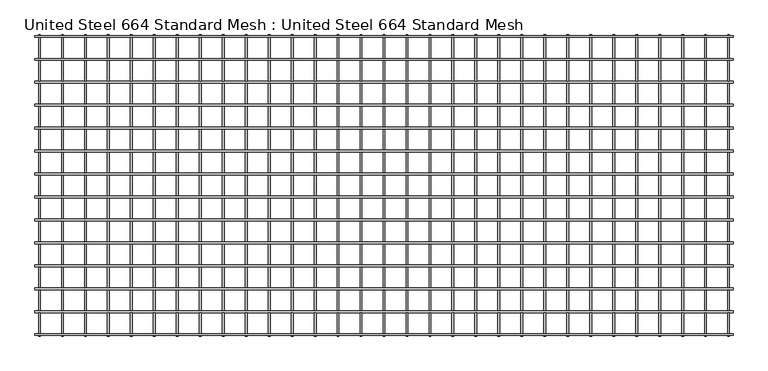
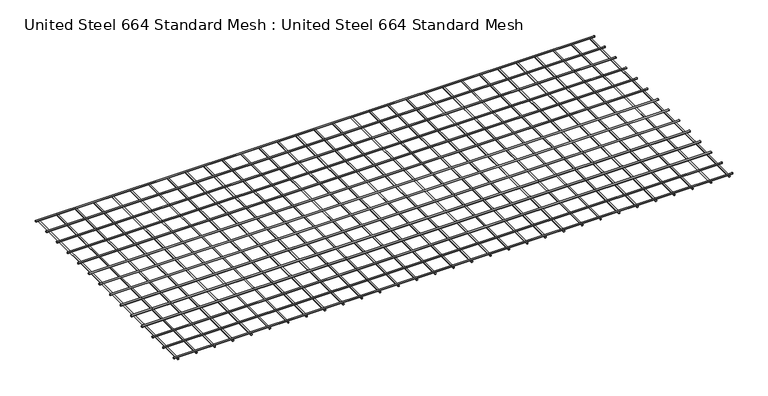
"""IFC4 building model written with IfcOpenShell, lengths in millimetres: proxy geometry, United Steel 664 Standard Mesh : United Steel 664 Standard Mesh."""

from ifc_helpers import new_model, si_unit, point, frame, frame_2d, origin, place, context, project, spatial, circle_curve, trimmed, segment, composite_curve, outline, extrude, source, transform, mapped, element, save


def united_steel_664_standard_mesh_united_steel_664_standard_126bfd4c(model_context):
    return source(origin(), model_context, "Body", "SweptSolid", [
        extrude(outline(composite_curve([segment(trimmed(circle_curve(frame_2d((-160.258988, 17.9942225)), 6.0), [point((-166.258988, 17.9942225))], [point((-154.258988, 17.9942225))], False, "CARTESIAN"), True, "CONTINUOUS"), segment(trimmed(circle_curve(frame_2d((-160.258988, 17.9942225)), 6.0), [point((-154.258988, 17.9942225))], [point((-166.258988, 17.9942225))], False, "CARTESIAN"), True, "CONTINUOUS")], self_intersect=False)), frame((-4560.0, 0.0, 0.0), z_axis=(1.0, 0.0, 0.0), x_axis=(0.0, 1.0, 0.0)), (0.0, 0.0, 1.0), 4560.0),
        extrude(outline(composite_curve([segment(trimmed(circle_curve(frame_2d((5.9979006, -4380.0336269)), 6.0), [point((5.9979006, -4386.0336269))], [point((5.9979006, -4374.0336269))], False, "CARTESIAN"), True, "CONTINUOUS"), segment(trimmed(circle_curve(frame_2d((5.9979006, -4380.0336269)), 6.0), [point((5.9979006, -4374.0336269))], [point((5.9979006, -4386.0336269))], False, "CARTESIAN"), True, "CONTINUOUS")], self_intersect=False)), frame((0.0, -1970.0, 0.0), z_axis=(0.0, 1.0, 0.0), x_axis=(0.0, 0.0, 1.0)), (0.0, 0.0, 1.0), 1970.0),
        extrude(outline(composite_curve([segment(trimmed(circle_curve(frame_2d((-310.2633498, 17.9942225)), 6.0), [point((-316.2633498, 17.9942225))], [point((-304.2633498, 17.9942225))], False, "CARTESIAN"), True, "CONTINUOUS"), segment(trimmed(circle_curve(frame_2d((-310.2633498, 17.9942225)), 6.0), [point((-304.2633498, 17.9942225))], [point((-316.2633498, 17.9942225))], False, "CARTESIAN"), True, "CONTINUOUS")], self_intersect=False)), frame((-4560.0, 0.0, 0.0), z_axis=(1.0, 0.0, 0.0), x_axis=(0.0, 1.0, 0.0)), (0.0, 0.0, 1.0), 4560.0),
        extrude(outline(composite_curve([segment(trimmed(circle_curve(frame_2d((-460.2677116, 17.9942225)), 6.0), [point((-466.2677116, 17.9942225))], [point((-454.2677116, 17.9942225))], False, "CARTESIAN"), True, "CONTINUOUS"), segment(trimmed(circle_curve(frame_2d((-460.2677116, 17.9942225)), 6.0), [point((-454.2677116, 17.9942225))], [point((-466.2677116, 17.9942225))], False, "CARTESIAN"), True, "CONTINUOUS")], self_intersect=False)), frame((-4560.0, 0.0, 0.0), z_axis=(1.0, 0.0, 0.0), x_axis=(0.0, 1.0, 0.0)), (0.0, 0.0, 1.0), 4560.0),
        extrude(outline(composite_curve([segment(trimmed(circle_curve(frame_2d((5.9979006, -4230.0270638)), 6.0), [point((5.9979006, -4236.0270638))], [point((5.9979006, -4224.0270638))], False, "CARTESIAN"), True, "CONTINUOUS"), segment(trimmed(circle_curve(frame_2d((5.9979006, -4230.0270638)), 6.0), [point((5.9979006, -4224.0270638))], [point((5.9979006, -4236.0270638))], False, "CARTESIAN"), True, "CONTINUOUS")], self_intersect=False)), frame((0.0, -1970.0, 0.0), z_axis=(0.0, 1.0, 0.0), x_axis=(0.0, 0.0, 1.0)), (0.0, 0.0, 1.0), 1970.0),
        extrude(outline(composite_curve([segment(trimmed(circle_curve(frame_2d((5.9979006, -4080.0205008)), 6.0), [point((5.9979006, -4086.0205008))], [point((5.9979006, -4074.0205008))], False, "CARTESIAN"), True, "CONTINUOUS"), segment(trimmed(circle_curve(frame_2d((5.9979006, -4080.0205008)), 6.0), [point((5.9979006, -4074.0205008))], [point((5.9979006, -4086.0205008))], False, "CARTESIAN"), True, "CONTINUOUS")], self_intersect=False)), frame((0.0, -1970.0, 0.0), z_axis=(0.0, 1.0, 0.0), x_axis=(0.0, 0.0, 1.0)), (0.0, 0.0, 1.0), 1970.0),
        extrude(outline(composite_curve([segment(trimmed(circle_curve(frame_2d((5.9979006, -3930.0139377)), 6.0), [point((5.9979006, -3936.0139377))], [point((5.9979006, -3924.0139377))], False, "CARTESIAN"), True, "CONTINUOUS"), segment(trimmed(circle_curve(frame_2d((5.9979006, -3930.0139377)), 6.0), [point((5.9979006, -3924.0139377))], [point((5.9979006, -3936.0139377))], False, "CARTESIAN"), True, "CONTINUOUS")], self_intersect=False)), frame((0.0, -1970.0, 0.0), z_axis=(0.0, 1.0, 0.0), x_axis=(0.0, 0.0, 1.0)), (0.0, 0.0, 1.0), 1970.0),
        extrude(outline(composite_curve([segment(trimmed(circle_curve(frame_2d((5.9979006, -3780.0073746)), 6.0), [point((5.9979006, -3786.0073746))], [point((5.9979006, -3774.0073746))], False, "CARTESIAN"), True, "CONTINUOUS"), segment(trimmed(circle_curve(frame_2d((5.9979006, -3780.0073746)), 6.0), [point((5.9979006, -3774.0073746))], [point((5.9979006, -3786.0073746))], False, "CARTESIAN"), True, "CONTINUOUS")], self_intersect=False)), frame((0.0, -1970.0, 0.0), z_axis=(0.0, 1.0, 0.0), x_axis=(0.0, 0.0, 1.0)), (0.0, 0.0, 1.0), 1970.0),
        extrude(outline(composite_curve([segment(trimmed(circle_curve(frame_2d((5.9979006, -3630.0008116)), 6.0), [point((5.9979006, -3636.0008116))], [point((5.9979006, -3624.0008116))], False, "CARTESIAN"), True, "CONTINUOUS"), segment(trimmed(circle_curve(frame_2d((5.9979006, -3630.0008116)), 6.0), [point((5.9979006, -3624.0008116))], [point((5.9979006, -3636.0008116))], False, "CARTESIAN"), True, "CONTINUOUS")], self_intersect=False)), frame((0.0, -1970.0, 0.0), z_axis=(0.0, 1.0, 0.0), x_axis=(0.0, 0.0, 1.0)), (0.0, 0.0, 1.0), 1970.0),
        extrude(outline(composite_curve([segment(trimmed(circle_curve(frame_2d((5.9979006, -3479.9942485)), 6.0), [point((5.9979006, -3485.9942485))], [point((5.9979006, -3473.9942485))], False, "CARTESIAN"), True, "CONTINUOUS"), segment(trimmed(circle_curve(frame_2d((5.9979006, -3479.9942485)), 6.0), [point((5.9979006, -3473.9942485))], [point((5.9979006, -3485.9942485))], False, "CARTESIAN"), True, "CONTINUOUS")], self_intersect=False)), frame((0.0, -1970.0, 0.0), z_axis=(0.0, 1.0, 0.0), x_axis=(0.0, 0.0, 1.0)), (0.0, 0.0, 1.0), 1970.0),
        extrude(outline(composite_curve([segment(trimmed(circle_curve(frame_2d((5.9979006, -3329.9876855)), 6.0), [point((5.9979006, -3335.9876855))], [point((5.9979006, -3323.9876855))], False, "CARTESIAN"), True, "CONTINUOUS"), segment(trimmed(circle_curve(frame_2d((5.9979006, -3329.9876855)), 6.0), [point((5.9979006, -3323.9876855))], [point((5.9979006, -3335.9876855))], False, "CARTESIAN"), True, "CONTINUOUS")], self_intersect=False)), frame((0.0, -1970.0, 0.0), z_axis=(0.0, 1.0, 0.0), x_axis=(0.0, 0.0, 1.0)), (0.0, 0.0, 1.0), 1970.0),
        extrude(outline(composite_curve([segment(trimmed(circle_curve(frame_2d((-610.2720734, 17.9942225)), 6.0), [point((-616.2720734, 17.9942225))], [point((-604.2720734, 17.9942225))], False, "CARTESIAN"), True, "CONTINUOUS"), segment(trimmed(circle_curve(frame_2d((-610.2720734, 17.9942225)), 6.0), [point((-604.2720734, 17.9942225))], [point((-616.2720734, 17.9942225))], False, "CARTESIAN"), True, "CONTINUOUS")], self_intersect=False)), frame((-4560.0, 0.0, 0.0), z_axis=(1.0, 0.0, 0.0), x_axis=(0.0, 1.0, 0.0)), (0.0, 0.0, 1.0), 4560.0),
        extrude(outline(composite_curve([segment(trimmed(circle_curve(frame_2d((-760.2764352, 17.9942225)), 6.0), [point((-766.2764352, 17.9942225))], [point((-754.2764352, 17.9942225))], False, "CARTESIAN"), True, "CONTINUOUS"), segment(trimmed(circle_curve(frame_2d((-760.2764352, 17.9942225)), 6.0), [point((-754.2764352, 17.9942225))], [point((-766.2764352, 17.9942225))], False, "CARTESIAN"), True, "CONTINUOUS")], self_intersect=False)), frame((-4560.0, 0.0, 0.0), z_axis=(1.0, 0.0, 0.0), x_axis=(0.0, 1.0, 0.0)), (0.0, 0.0, 1.0), 4560.0),
        extrude(outline(composite_curve([segment(trimmed(circle_curve(frame_2d((-910.280797, 17.9942225)), 6.0), [point((-916.280797, 17.9942225))], [point((-904.280797, 17.9942225))], False, "CARTESIAN"), True, "CONTINUOUS"), segment(trimmed(circle_curve(frame_2d((-910.280797, 17.9942225)), 6.0), [point((-904.280797, 17.9942225))], [point((-916.280797, 17.9942225))], False, "CARTESIAN"), True, "CONTINUOUS")], self_intersect=False)), frame((-4560.0, 0.0, 0.0), z_axis=(1.0, 0.0, 0.0), x_axis=(0.0, 1.0, 0.0)), (0.0, 0.0, 1.0), 4560.0),
        extrude(outline(composite_curve([segment(trimmed(circle_curve(frame_2d((-1060.2851588, 17.9942225)), 6.0), [point((-1066.2851588, 17.9942225))], [point((-1054.2851588, 17.9942225))], False, "CARTESIAN"), True, "CONTINUOUS"), segment(trimmed(circle_curve(frame_2d((-1060.2851588, 17.9942225)), 6.0), [point((-1054.2851588, 17.9942225))], [point((-1066.2851588, 17.9942225))], False, "CARTESIAN"), True, "CONTINUOUS")], self_intersect=False)), frame((-4560.0, 0.0, 0.0), z_axis=(1.0, 0.0, 0.0), x_axis=(0.0, 1.0, 0.0)), (0.0, 0.0, 1.0), 4560.0),
        extrude(outline(composite_curve([segment(trimmed(circle_curve(frame_2d((-1210.2895206, 17.9942225)), 6.0), [point((-1216.2895206, 17.9942225))], [point((-1204.2895206, 17.9942225))], False, "CARTESIAN"), True, "CONTINUOUS"), segment(trimmed(circle_curve(frame_2d((-1210.2895206, 17.9942225)), 6.0), [point((-1204.2895206, 17.9942225))], [point((-1216.2895206, 17.9942225))], False, "CARTESIAN"), True, "CONTINUOUS")], self_intersect=False)), frame((-4560.0, 0.0, 0.0), z_axis=(1.0, 0.0, 0.0), x_axis=(0.0, 1.0, 0.0)), (0.0, 0.0, 1.0), 4560.0),
        extrude(outline(composite_curve([segment(trimmed(circle_curve(frame_2d((-1360.2938824, 17.9942225)), 6.0), [point((-1366.2938824, 17.9942225))], [point((-1354.2938824, 17.9942225))], False, "CARTESIAN"), True, "CONTINUOUS"), segment(trimmed(circle_curve(frame_2d((-1360.2938824, 17.9942225)), 6.0), [point((-1354.2938824, 17.9942225))], [point((-1366.2938824, 17.9942225))], False, "CARTESIAN"), True, "CONTINUOUS")], self_intersect=False)), frame((-4560.0, 0.0, 0.0), z_axis=(1.0, 0.0, 0.0), x_axis=(0.0, 1.0, 0.0)), (0.0, 0.0, 1.0), 4560.0),
        extrude(outline(composite_curve([segment(trimmed(circle_curve(frame_2d((-1510.2982442, 17.9942225)), 6.0), [point((-1516.2982442, 17.9942225))], [point((-1504.2982442, 17.9942225))], False, "CARTESIAN"), True, "CONTINUOUS"), segment(trimmed(circle_curve(frame_2d((-1510.2982442, 17.9942225)), 6.0), [point((-1504.2982442, 17.9942225))], [point((-1516.2982442, 17.9942225))], False, "CARTESIAN"), True, "CONTINUOUS")], self_intersect=False)), frame((-4560.0, 0.0, 0.0), z_axis=(1.0, 0.0, 0.0), x_axis=(0.0, 1.0, 0.0)), (0.0, 0.0, 1.0), 4560.0),
        extrude(outline(composite_curve([segment(trimmed(circle_curve(frame_2d((-1660.302606, 17.9942225)), 6.0), [point((-1666.302606, 17.9942225))], [point((-1654.302606, 17.9942225))], False, "CARTESIAN"), True, "CONTINUOUS"), segment(trimmed(circle_curve(frame_2d((-1660.302606, 17.9942225)), 6.0), [point((-1654.302606, 17.9942225))], [point((-1666.302606, 17.9942225))], False, "CARTESIAN"), True, "CONTINUOUS")], self_intersect=False)), frame((-4560.0, 0.0, 0.0), z_axis=(1.0, 0.0, 0.0), x_axis=(0.0, 1.0, 0.0)), (0.0, 0.0, 1.0), 4560.0),
        extrude(outline(composite_curve([segment(trimmed(circle_curve(frame_2d((-1810.3069678, 17.9942225)), 6.0), [point((-1816.3069678, 17.9942225))], [point((-1804.3069678, 17.9942225))], False, "CARTESIAN"), True, "CONTINUOUS"), segment(trimmed(circle_curve(frame_2d((-1810.3069678, 17.9942225)), 6.0), [point((-1804.3069678, 17.9942225))], [point((-1816.3069678, 17.9942225))], False, "CARTESIAN"), True, "CONTINUOUS")], self_intersect=False)), frame((-4560.0, 0.0, 0.0), z_axis=(1.0, 0.0, 0.0), x_axis=(0.0, 1.0, 0.0)), (0.0, 0.0, 1.0), 4560.0),
        extrude(outline(composite_curve([segment(trimmed(circle_curve(frame_2d((-10.2546262, 17.9942225)), 6.0), [point((-16.2546262, 17.9942225))], [point((-4.2546262, 17.9942225))], False, "CARTESIAN"), True, "CONTINUOUS"), segment(trimmed(circle_curve(frame_2d((-10.2546262, 17.9942225)), 6.0), [point((-4.2546262, 17.9942225))], [point((-16.2546262, 17.9942225))], False, "CARTESIAN"), True, "CONTINUOUS")], self_intersect=False)), frame((-4560.0, 0.0, 0.0), z_axis=(1.0, 0.0, 0.0), x_axis=(0.0, 1.0, 0.0)), (0.0, 0.0, 1.0), 4560.0),
        extrude(outline(composite_curve([segment(trimmed(circle_curve(frame_2d((-1960.3113296, 17.9942225)), 6.0), [point((-1966.3113296, 17.9942225))], [point((-1954.3113296, 17.9942225))], False, "CARTESIAN"), True, "CONTINUOUS"), segment(trimmed(circle_curve(frame_2d((-1960.3113296, 17.9942225)), 6.0), [point((-1954.3113296, 17.9942225))], [point((-1966.3113296, 17.9942225))], False, "CARTESIAN"), True, "CONTINUOUS")], self_intersect=False)), frame((-4560.0, 0.0, 0.0), z_axis=(1.0, 0.0, 0.0), x_axis=(0.0, 1.0, 0.0)), (0.0, 0.0, 1.0), 4560.0),
        extrude(outline(composite_curve([segment(trimmed(circle_curve(frame_2d((5.9979006, -3179.9811224)), 6.0), [point((5.9979006, -3185.9811224))], [point((5.9979006, -3173.9811224))], False, "CARTESIAN"), True, "CONTINUOUS"), segment(trimmed(circle_curve(frame_2d((5.9979006, -3179.9811224)), 6.0), [point((5.9979006, -3173.9811224))], [point((5.9979006, -3185.9811224))], False, "CARTESIAN"), True, "CONTINUOUS")], self_intersect=False)), frame((0.0, -1970.0, 0.0), z_axis=(0.0, 1.0, 0.0), x_axis=(0.0, 0.0, 1.0)), (0.0, 0.0, 1.0), 1970.0),
        extrude(outline(composite_curve([segment(trimmed(circle_curve(frame_2d((5.9979006, -3029.9745593)), 6.0), [point((5.9979006, -3035.9745593))], [point((5.9979006, -3023.9745593))], False, "CARTESIAN"), True, "CONTINUOUS"), segment(trimmed(circle_curve(frame_2d((5.9979006, -3029.9745593)), 6.0), [point((5.9979006, -3023.9745593))], [point((5.9979006, -3035.9745593))], False, "CARTESIAN"), True, "CONTINUOUS")], self_intersect=False)), frame((0.0, -1970.0, 0.0), z_axis=(0.0, 1.0, 0.0), x_axis=(0.0, 0.0, 1.0)), (0.0, 0.0, 1.0), 1970.0),
        extrude(outline(composite_curve([segment(trimmed(circle_curve(frame_2d((5.9979006, -2879.9679963)), 6.0), [point((5.9979006, -2885.9679963))], [point((5.9979006, -2873.9679963))], False, "CARTESIAN"), True, "CONTINUOUS"), segment(trimmed(circle_curve(frame_2d((5.9979006, -2879.9679963)), 6.0), [point((5.9979006, -2873.9679963))], [point((5.9979006, -2885.9679963))], False, "CARTESIAN"), True, "CONTINUOUS")], self_intersect=False)), frame((0.0, -1970.0, 0.0), z_axis=(0.0, 1.0, 0.0), x_axis=(0.0, 0.0, 1.0)), (0.0, 0.0, 1.0), 1970.0),
        extrude(outline(composite_curve([segment(trimmed(circle_curve(frame_2d((5.9979006, -2729.9614332)), 6.0), [point((5.9979006, -2735.9614332))], [point((5.9979006, -2723.9614332))], False, "CARTESIAN"), True, "CONTINUOUS"), segment(trimmed(circle_curve(frame_2d((5.9979006, -2729.9614332)), 6.0), [point((5.9979006, -2723.9614332))], [point((5.9979006, -2735.9614332))], False, "CARTESIAN"), True, "CONTINUOUS")], self_intersect=False)), frame((0.0, -1970.0, 0.0), z_axis=(0.0, 1.0, 0.0), x_axis=(0.0, 0.0, 1.0)), (0.0, 0.0, 1.0), 1970.0),
        extrude(outline(composite_curve([segment(trimmed(circle_curve(frame_2d((5.9979006, -2579.9548701)), 6.0), [point((5.9979006, -2585.9548701))], [point((5.9979006, -2573.9548701))], False, "CARTESIAN"), True, "CONTINUOUS"), segment(trimmed(circle_curve(frame_2d((5.9979006, -2579.9548701)), 6.0), [point((5.9979006, -2573.9548701))], [point((5.9979006, -2585.9548701))], False, "CARTESIAN"), True, "CONTINUOUS")], self_intersect=False)), frame((0.0, -1970.0, 0.0), z_axis=(0.0, 1.0, 0.0), x_axis=(0.0, 0.0, 1.0)), (0.0, 0.0, 1.0), 1970.0),
        extrude(outline(composite_curve([segment(trimmed(circle_curve(frame_2d((5.9979006, -2429.9483071)), 6.0), [point((5.9979006, -2435.9483071))], [point((5.9979006, -2423.9483071))], False, "CARTESIAN"), True, "CONTINUOUS"), segment(trimmed(circle_curve(frame_2d((5.9979006, -2429.9483071)), 6.0), [point((5.9979006, -2423.9483071))], [point((5.9979006, -2435.9483071))], False, "CARTESIAN"), True, "CONTINUOUS")], self_intersect=False)), frame((0.0, -1970.0, 0.0), z_axis=(0.0, 1.0, 0.0), x_axis=(0.0, 0.0, 1.0)), (0.0, 0.0, 1.0), 1970.0),
        extrude(outline(composite_curve([segment(trimmed(circle_curve(frame_2d((5.9979006, -2279.941744)), 6.0), [point((5.9979006, -2285.941744))], [point((5.9979006, -2273.941744))], False, "CARTESIAN"), True, "CONTINUOUS"), segment(trimmed(circle_curve(frame_2d((5.9979006, -2279.941744)), 6.0), [point((5.9979006, -2273.941744))], [point((5.9979006, -2285.941744))], False, "CARTESIAN"), True, "CONTINUOUS")], self_intersect=False)), frame((0.0, -1970.0, 0.0), z_axis=(0.0, 1.0, 0.0), x_axis=(0.0, 0.0, 1.0)), (0.0, 0.0, 1.0), 1970.0),
        extrude(outline(composite_curve([segment(trimmed(circle_curve(frame_2d((5.9979006, -2129.9351809)), 6.0), [point((5.9979006, -2135.9351809))], [point((5.9979006, -2123.9351809))], False, "CARTESIAN"), True, "CONTINUOUS"), segment(trimmed(circle_curve(frame_2d((5.9979006, -2129.9351809)), 6.0), [point((5.9979006, -2123.9351809))], [point((5.9979006, -2135.9351809))], False, "CARTESIAN"), True, "CONTINUOUS")], self_intersect=False)), frame((0.0, -1970.0, 0.0), z_axis=(0.0, 1.0, 0.0), x_axis=(0.0, 0.0, 1.0)), (0.0, 0.0, 1.0), 1970.0),
        extrude(outline(composite_curve([segment(trimmed(circle_curve(frame_2d((5.9979006, -1979.9286179)), 6.0), [point((5.9979006, -1985.9286179))], [point((5.9979006, -1973.9286179))], False, "CARTESIAN"), True, "CONTINUOUS"), segment(trimmed(circle_curve(frame_2d((5.9979006, -1979.9286179)), 6.0), [point((5.9979006, -1973.9286179))], [point((5.9979006, -1985.9286179))], False, "CARTESIAN"), True, "CONTINUOUS")], self_intersect=False)), frame((0.0, -1970.0, 0.0), z_axis=(0.0, 1.0, 0.0), x_axis=(0.0, 0.0, 1.0)), (0.0, 0.0, 1.0), 1970.0),
        extrude(outline(composite_curve([segment(trimmed(circle_curve(frame_2d((5.9979006, -1829.9220548)), 6.0), [point((5.9979006, -1835.9220548))], [point((5.9979006, -1823.9220548))], False, "CARTESIAN"), True, "CONTINUOUS"), segment(trimmed(circle_curve(frame_2d((5.9979006, -1829.9220548)), 6.0), [point((5.9979006, -1823.9220548))], [point((5.9979006, -1835.9220548))], False, "CARTESIAN"), True, "CONTINUOUS")], self_intersect=False)), frame((0.0, -1970.0, 0.0), z_axis=(0.0, 1.0, 0.0), x_axis=(0.0, 0.0, 1.0)), (0.0, 0.0, 1.0), 1970.0),
        extrude(outline(composite_curve([segment(trimmed(circle_curve(frame_2d((5.9979006, -1679.9154918)), 6.0), [point((5.9979006, -1685.9154918))], [point((5.9979006, -1673.9154918))], False, "CARTESIAN"), True, "CONTINUOUS"), segment(trimmed(circle_curve(frame_2d((5.9979006, -1679.9154918)), 6.0), [point((5.9979006, -1673.9154918))], [point((5.9979006, -1685.9154918))], False, "CARTESIAN"), True, "CONTINUOUS")], self_intersect=False)), frame((0.0, -1970.0, 0.0), z_axis=(0.0, 1.0, 0.0), x_axis=(0.0, 0.0, 1.0)), (0.0, 0.0, 1.0), 1970.0),
        extrude(outline(composite_curve([segment(trimmed(circle_curve(frame_2d((5.9979006, -1529.9089287)), 6.0), [point((5.9979006, -1535.9089287))], [point((5.9979006, -1523.9089287))], False, "CARTESIAN"), True, "CONTINUOUS"), segment(trimmed(circle_curve(frame_2d((5.9979006, -1529.9089287)), 6.0), [point((5.9979006, -1523.9089287))], [point((5.9979006, -1535.9089287))], False, "CARTESIAN"), True, "CONTINUOUS")], self_intersect=False)), frame((0.0, -1970.0, 0.0), z_axis=(0.0, 1.0, 0.0), x_axis=(0.0, 0.0, 1.0)), (0.0, 0.0, 1.0), 1970.0),
        extrude(outline(composite_curve([segment(trimmed(circle_curve(frame_2d((5.9979006, -1379.9023656)), 6.0), [point((5.9979006, -1385.9023656))], [point((5.9979006, -1373.9023656))], False, "CARTESIAN"), True, "CONTINUOUS"), segment(trimmed(circle_curve(frame_2d((5.9979006, -1379.9023656)), 6.0), [point((5.9979006, -1373.9023656))], [point((5.9979006, -1385.9023656))], False, "CARTESIAN"), True, "CONTINUOUS")], self_intersect=False)), frame((0.0, -1970.0, 0.0), z_axis=(0.0, 1.0, 0.0), x_axis=(0.0, 0.0, 1.0)), (0.0, 0.0, 1.0), 1970.0),
        extrude(outline(composite_curve([segment(trimmed(circle_curve(frame_2d((5.9979006, -1229.8958026)), 6.0), [point((5.9979006, -1235.8958026))], [point((5.9979006, -1223.8958026))], False, "CARTESIAN"), True, "CONTINUOUS"), segment(trimmed(circle_curve(frame_2d((5.9979006, -1229.8958026)), 6.0), [point((5.9979006, -1223.8958026))], [point((5.9979006, -1235.8958026))], False, "CARTESIAN"), True, "CONTINUOUS")], self_intersect=False)), frame((0.0, -1970.0, 0.0), z_axis=(0.0, 1.0, 0.0), x_axis=(0.0, 0.0, 1.0)), (0.0, 0.0, 1.0), 1970.0),
        extrude(outline(composite_curve([segment(trimmed(circle_curve(frame_2d((5.9979006, -1079.8892395)), 6.0), [point((5.9979006, -1085.8892395))], [point((5.9979006, -1073.8892395))], False, "CARTESIAN"), True, "CONTINUOUS"), segment(trimmed(circle_curve(frame_2d((5.9979006, -1079.8892395)), 6.0), [point((5.9979006, -1073.8892395))], [point((5.9979006, -1085.8892395))], False, "CARTESIAN"), True, "CONTINUOUS")], self_intersect=False)), frame((0.0, -1970.0, 0.0), z_axis=(0.0, 1.0, 0.0), x_axis=(0.0, 0.0, 1.0)), (0.0, 0.0, 1.0), 1970.0),
        extrude(outline(composite_curve([segment(trimmed(circle_curve(frame_2d((5.9979006, -929.8826764)), 6.0), [point((5.9979006, -935.8826764))], [point((5.9979006, -923.8826764))], False, "CARTESIAN"), True, "CONTINUOUS"), segment(trimmed(circle_curve(frame_2d((5.9979006, -929.8826764)), 6.0), [point((5.9979006, -923.8826764))], [point((5.9979006, -935.8826764))], False, "CARTESIAN"), True, "CONTINUOUS")], self_intersect=False)), frame((0.0, -1970.0, 0.0), z_axis=(0.0, 1.0, 0.0), x_axis=(0.0, 0.0, 1.0)), (0.0, 0.0, 1.0), 1970.0),
        extrude(outline(composite_curve([segment(trimmed(circle_curve(frame_2d((5.9979006, -779.8761134)), 6.0), [point((5.9979006, -785.8761134))], [point((5.9979006, -773.8761134))], False, "CARTESIAN"), True, "CONTINUOUS"), segment(trimmed(circle_curve(frame_2d((5.9979006, -779.8761134)), 6.0), [point((5.9979006, -773.8761134))], [point((5.9979006, -785.8761134))], False, "CARTESIAN"), True, "CONTINUOUS")], self_intersect=False)), frame((0.0, -1970.0, 0.0), z_axis=(0.0, 1.0, 0.0), x_axis=(0.0, 0.0, 1.0)), (0.0, 0.0, 1.0), 1970.0),
        extrude(outline(composite_curve([segment(trimmed(circle_curve(frame_2d((5.9979006, -629.8695503)), 6.0), [point((5.9979006, -635.8695503))], [point((5.9979006, -623.8695503))], False, "CARTESIAN"), True, "CONTINUOUS"), segment(trimmed(circle_curve(frame_2d((5.9979006, -629.8695503)), 6.0), [point((5.9979006, -623.8695503))], [point((5.9979006, -635.8695503))], False, "CARTESIAN"), True, "CONTINUOUS")], self_intersect=False)), frame((0.0, -1970.0, 0.0), z_axis=(0.0, 1.0, 0.0), x_axis=(0.0, 0.0, 1.0)), (0.0, 0.0, 1.0), 1970.0),
        extrude(outline(composite_curve([segment(trimmed(circle_curve(frame_2d((5.9979006, -479.8629872)), 6.0), [point((5.9979006, -485.8629872))], [point((5.9979006, -473.8629872))], False, "CARTESIAN"), True, "CONTINUOUS"), segment(trimmed(circle_curve(frame_2d((5.9979006, -479.8629872)), 6.0), [point((5.9979006, -473.8629872))], [point((5.9979006, -485.8629872))], False, "CARTESIAN"), True, "CONTINUOUS")], self_intersect=False)), frame((0.0, -1970.0, 0.0), z_axis=(0.0, 1.0, 0.0), x_axis=(0.0, 0.0, 1.0)), (0.0, 0.0, 1.0), 1970.0),
        extrude(outline(composite_curve([segment(trimmed(circle_curve(frame_2d((5.9979006, -329.8564242)), 6.0), [point((5.9979006, -335.8564242))], [point((5.9979006, -323.8564242))], False, "CARTESIAN"), True, "CONTINUOUS"), segment(trimmed(circle_curve(frame_2d((5.9979006, -329.8564242)), 6.0), [point((5.9979006, -323.8564242))], [point((5.9979006, -335.8564242))], False, "CARTESIAN"), True, "CONTINUOUS")], self_intersect=False)), frame((0.0, -1970.0, 0.0), z_axis=(0.0, 1.0, 0.0), x_axis=(0.0, 0.0, 1.0)), (0.0, 0.0, 1.0), 1970.0),
        extrude(outline(composite_curve([segment(trimmed(circle_curve(frame_2d((5.9979006, -179.8498611)), 6.0), [point((5.9979006, -185.8498611))], [point((5.9979006, -173.8498611))], False, "CARTESIAN"), True, "CONTINUOUS"), segment(trimmed(circle_curve(frame_2d((5.9979006, -179.8498611)), 6.0), [point((5.9979006, -173.8498611))], [point((5.9979006, -185.8498611))], False, "CARTESIAN"), True, "CONTINUOUS")], self_intersect=False)), frame((0.0, -1970.0, 0.0), z_axis=(0.0, 1.0, 0.0), x_axis=(0.0, 0.0, 1.0)), (0.0, 0.0, 1.0), 1970.0),
        extrude(outline(composite_curve([segment(trimmed(circle_curve(frame_2d((5.9979006, -4530.04019)), 6.0), [point((5.9979006, -4536.04019))], [point((5.9979006, -4524.04019))], False, "CARTESIAN"), True, "CONTINUOUS"), segment(trimmed(circle_curve(frame_2d((5.9979006, -4530.04019)), 6.0), [point((5.9979006, -4524.04019))], [point((5.9979006, -4536.04019))], False, "CARTESIAN"), True, "CONTINUOUS")], self_intersect=False)), frame((0.0, -1970.0, 0.0), z_axis=(0.0, 1.0, 0.0), x_axis=(0.0, 0.0, 1.0)), (0.0, 0.0, 1.0), 1970.0),
        extrude(outline(composite_curve([segment(trimmed(circle_curve(frame_2d((5.9979006, -29.8432981)), 6.0), [point((5.9979006, -35.8432981))], [point((5.9979006, -23.8432981))], False, "CARTESIAN"), True, "CONTINUOUS"), segment(trimmed(circle_curve(frame_2d((5.9979006, -29.8432981)), 6.0), [point((5.9979006, -23.8432981))], [point((5.9979006, -35.8432981))], False, "CARTESIAN"), True, "CONTINUOUS")], self_intersect=False)), frame((0.0, -1970.0, 0.0), z_axis=(0.0, 1.0, 0.0), x_axis=(0.0, 0.0, 1.0)), (0.0, 0.0, 1.0), 1970.0),
    ])


if __name__ == "__main__":
    model = new_model("IFC4")
    model_context = context("Model", 3, world=origin())
    ifc_project = project(units=[si_unit("LENGTHUNIT", "METRE", prefix="MILLI")], contexts=[model_context])
    site = spatial("IfcSite", under=ifc_project)
    building = spatial("IfcBuilding", under=site)
    placement = place(None, origin())
    united_steel_664_standard_mesh_united_steel_664_standard_shape = united_steel_664_standard_mesh_united_steel_664_standard_126bfd4c(model_context)
    element("IfcBuildingElementProxy", 1, Name="United Steel 664 Standard Mesh : United Steel 664 Standard Mesh", ObjectType="United Steel 664 Standard Mesh : United Steel 664 Standard Mesh", at=placement, inside=building, context=model_context, shape_type="MappedRepresentation", body=[
        mapped(united_steel_664_standard_mesh_united_steel_664_standard_shape, transform((0.0, 0.0, 0.0), x_axis=(1.0, 0.0, 0.0), y_axis=(0.0, 1.0, 0.0), z_axis=(0.0, 0.0, 1.0))),
    ])
    save(model, "model.ifc")
